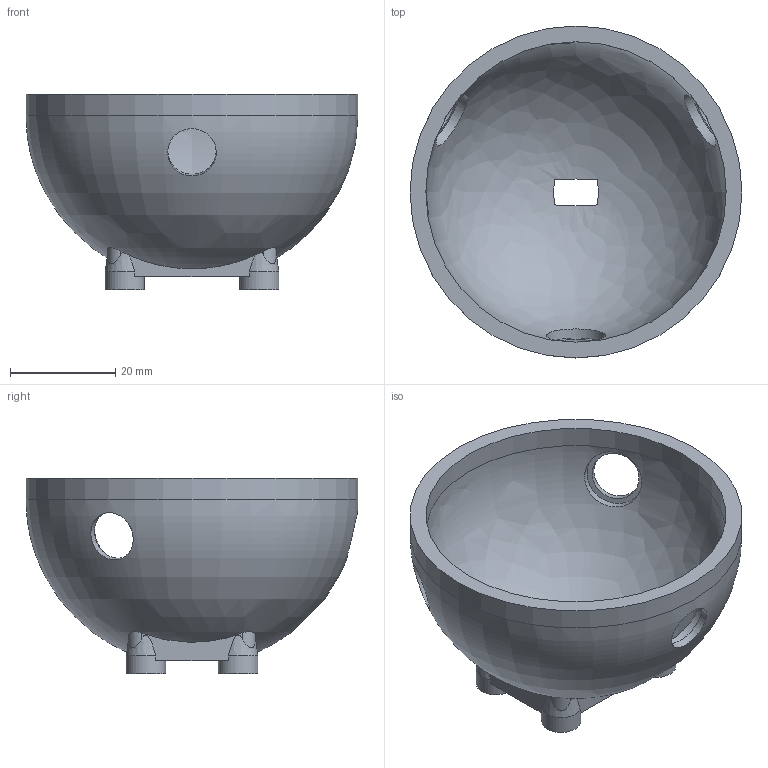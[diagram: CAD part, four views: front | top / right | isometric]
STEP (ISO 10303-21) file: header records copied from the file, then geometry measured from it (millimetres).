
FILE_DESCRIPTION(('Open CASCADE Model'),'2;1');
FILE_NAME('Open CASCADE Shape Model','2026-05-31T19:43:56',('Author'),( 'Open CASCADE'),'Open CASCADE STEP processor 7.6','Open CASCADE 7.6' ,'Unknown');
FILE_SCHEMA(('AP242_MANAGED_MODEL_BASED_3D_ENGINEERING_MIM_LF. {1 0 10303 442 1 1 4 }'));
Length unit declared in the file: millimetre
Products named in the file (1): Open CASCADE STEP translator 7.6 15
Bounding box: 63 x 63 x 37.1 mm (x, y, z)
Volume: 19503.6 mm3; surface area: 14163.5 mm2
Topology: 1 solids, 1 shells, 60 faces, 150 edges, 100 vertices
Faces by surface type: plane 26, cylinder 24, bspline 4, cone 4, revolution 2
Full cylindrical faces by diameter (mm): 3.5 x4, 7.5 x4, 9.2 x3, 11.2 x3, 57 x1, 63 x1
Entity records: 8595 total; most frequent: CARTESIAN_POINT 5700, DIRECTION 494, ORIENTED_EDGE 300, PCURVE 300, DEFINITIONAL_REPRESENTATION 300, LINE 230, VECTOR 230, EDGE_CURVE 150
